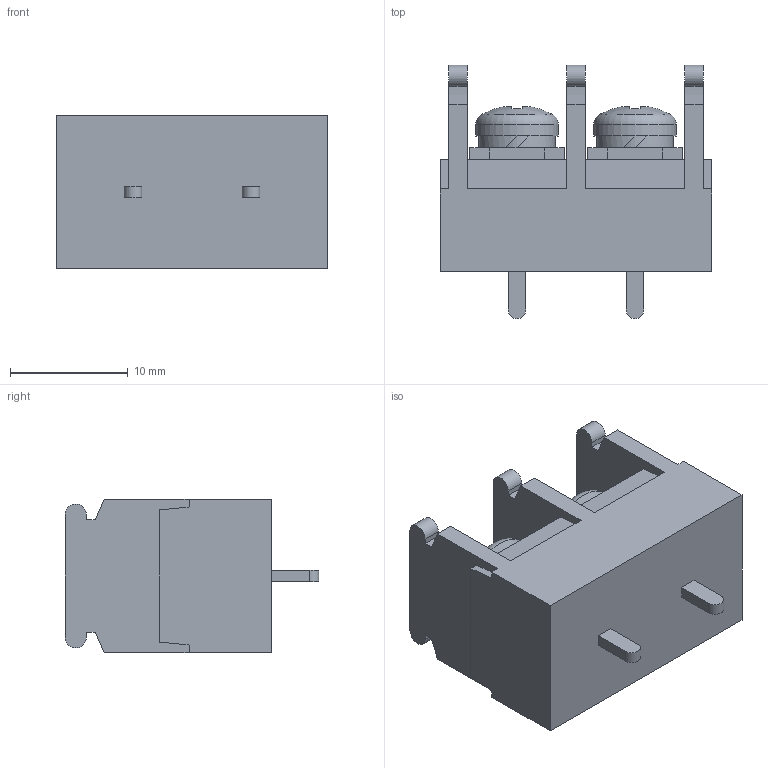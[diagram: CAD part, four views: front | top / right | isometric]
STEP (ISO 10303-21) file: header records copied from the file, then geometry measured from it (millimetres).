
FILE_DESCRIPTION(/* description */ ('Alibre Inc.'),/* implementation_level */ '2;1');
FILE_NAME(/* name */ 'export0',/* time_stamp */ '2015-10-17T19:38:47+09:00',/* author */ (''),/* organization */ (''),/* preprocessor_version */ 'ST-DEVELOPER v14',/* originating_system */ 'Alibre',/* authorisation */ '');
FILE_SCHEMA (('CONFIG_CONTROL_DESIGN'));
Length unit declared in the file: centimetre
Products named in the file (1): ID_1
Bounding box: 23 x 21.5 x 13 mm (x, y, z)
Volume: 3580.5 mm3; surface area: 2282.7 mm2
Topology: 1 solids, 17 shells, 522 faces, 1372 edges, 914 vertices
Faces by surface type: plane 392, bspline 104, cylinder 14, cone 8, sphere 2, torus 2
Full cylindrical faces by diameter (mm): 6.5 x2, 7 x2
Entity records: 15669 total; most frequent: CARTESIAN_POINT 3793, ORIENTED_EDGE 2736, DIRECTION 1662, EDGE_CURVE 1368, VECTOR 1066, LINE 1066, VERTEX_POINT 914, EDGE_LOOP 564
